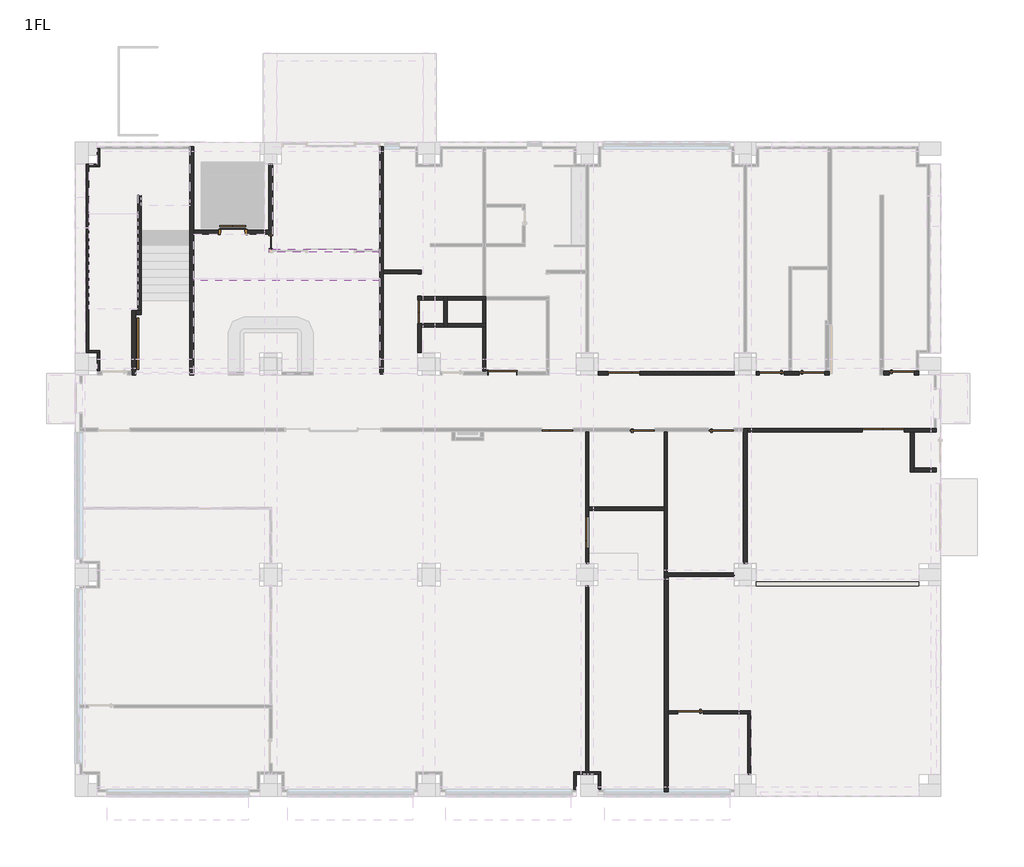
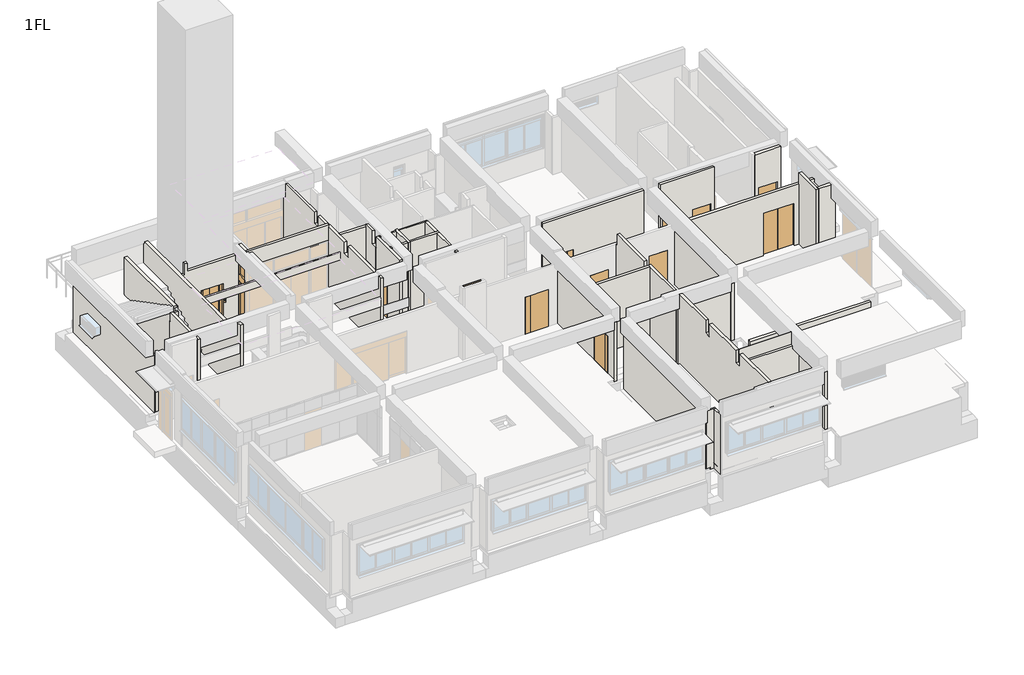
# One storey, part 2 of 7: 42 walls, 16 doors.
"""IFC4 building model written with IfcOpenShell, lengths in millimetres."""

from ifc_helpers import new_model, si_unit, frame, origin, origin_with_axes, place, context, project, spatial, polyline, outline, extrude, faceted_brep, transform, mapped, element, save
from components import door_18b0804b, door_c235f466, door_9fa6e922, door_14d6dc4f, door_dd0264bc, door_f9cae23c, door_7458d189, door_0812e9ce, door_c34db0e4, door_7e7a0efd, door_99cccb81, sd11_5945a8e4

model = new_model("IFC4")

# Units and contexts
model_context = context("Model", 3, world=origin())
ifc_project = project(units=[si_unit("LENGTHUNIT", "METRE", prefix="MILLI")], contexts=[model_context])

# Site, building, storey
site = spatial("IfcSite", under=ifc_project)
building = spatial("IfcBuilding", under=site)
storey = spatial("IfcBuildingStorey", under=building, Name="1FL", Elevation=0.0)

# Doors
placement = place(None, origin())
door_shape = door_18b0804b(model_context)
element("IfcDoor", 1, ObjectType="営_親子扉 : LD2 1200*2000", at=placement, inside=storey, context=model_context, shape_type="MappedRepresentation", body=[
    mapped(door_shape, transform((19000.0, 9600.0, 0.0), x_axis=(0.0, 1.0, 0.0), y_axis=(-1.0, 0.0, 0.0), z_axis=(0.0, 0.0, 1.0))),
])
door_2_shape = door_c235f466(model_context)
element("IfcDoor", 2, ObjectType="営_親子扉 : LD2 1200*2000", at=placement, inside=storey, context=model_context, shape_type="MappedRepresentation", body=[
    mapped(door_2_shape, transform((17875.0, 13500.0, 0.0), x_axis=(1.0, 0.0, 0.0), y_axis=(0.0, 1.0, 0.0), z_axis=(0.0, 0.0, 1.0))),
])
element("IfcDoor", 3, ObjectType="営_親子扉 : LD2 1200*2000", at=placement, inside=storey, context=model_context, shape_type="MappedRepresentation", body=[
    mapped(door_2_shape, transform((20400.0, 15640.0, 0.0), x_axis=(-1.0, 0.0, 0.0), y_axis=(0.0, -1.0, 0.0), z_axis=(0.0, 0.0, 1.0))),
])
door_3_shape = door_9fa6e922(model_context)
element("IfcDoor", 4, ObjectType="営_EVドア : EVドア", at=placement, inside=storey, context=model_context, shape_type="MappedRepresentation", body=[
    mapped(door_3_shape, transform((5560.0, 21000.0, 0.0), x_axis=(1.0, 0.0, 0.0), y_axis=(0.0, 1.0, 0.0), z_axis=(0.0, 0.0, 1.0))),
])
door_4_shape = door_14d6dc4f(model_context)
element("IfcDoor", 5, ObjectType="営_三方枠 : S1_850*2000", at=placement, inside=storey, context=model_context, shape_type="MappedRepresentation", body=[
    mapped(door_4_shape, transform((12640.0, 18990.25, 0.0), x_axis=(0.0, 1.0, 0.0), y_axis=(-1.0, 0.0, 0.0), z_axis=(0.0, 0.0, 1.0))),
])
door_5_shape = door_dd0264bc(model_context)
element("IfcDoor", 6, ObjectType="営_両開き扉 : SD3a 1600*2300", at=placement, inside=storey, context=model_context, shape_type="MappedRepresentation", body=[
    mapped(door_5_shape, transform((30235.0, 13480.0, 0.0), x_axis=(1.0, 0.0, 0.0), y_axis=(0.0, 1.0, 0.0), z_axis=(0.0, 0.0, 1.0))),
])
door_6_shape = door_f9cae23c(model_context)
element("IfcDoor", 7, ObjectType="営_両開き扉 : LD5 900*2000", at=placement, inside=storey, context=model_context, shape_type="MappedRepresentation", body=[
    mapped(door_6_shape, transform((12640.0, 17975.0, 0.0), x_axis=(0.0, 1.0, 0.0), y_axis=(-1.0, 0.0, 0.0), z_axis=(0.0, 0.0, 1.0))),
])
door_7_shape = door_7458d189(model_context)
element("IfcDoor", 8, ObjectType="営_引戸／引込戸 : LD1 960*2000", at=placement, inside=storey, context=model_context, shape_type="MappedRepresentation", body=[
    mapped(door_7_shape, transform((15800.0, 15640.0, 0.0), x_axis=(1.0, 0.0, 0.0), y_axis=(0.0, 1.0, 0.0), z_axis=(0.0, 0.0, 1.0))),
])
door_8_shape = door_0812e9ce(model_context)
element("IfcDoor", 9, ObjectType="営_片開き扉 : LD3 950*2000", at=placement, inside=storey, context=model_context, shape_type="MappedRepresentation", body=[
    mapped(door_8_shape, transform((26000.0, 15640.0, 0.0), x_axis=(-1.0, 0.0, 0.0), y_axis=(0.0, -1.0, 0.0), z_axis=(0.0, 0.0, 1.0))),
])
element("IfcDoor", 10, ObjectType="営_片開き扉 : LD3 950*2000", at=placement, inside=storey, context=model_context, shape_type="MappedRepresentation", body=[
    mapped(door_8_shape, transform((21085.0, 13500.0, 0.0), x_axis=(1.0, 0.0, 0.0), y_axis=(0.0, 1.0, 0.0), z_axis=(0.0, 0.0, 1.0))),
])
element("IfcDoor", 11, ObjectType="営_片開き扉 : LD3 950*2000", at=placement, inside=storey, context=model_context, shape_type="MappedRepresentation", body=[
    mapped(door_8_shape, transform((24085.0, 13500.0, 0.0), x_axis=(1.0, 0.0, 0.0), y_axis=(0.0, 1.0, 0.0), z_axis=(0.0, 0.0, 1.0))),
])
door_9_shape = door_c34db0e4(model_context)
element("IfcDoor", 12, ObjectType="営_片開き扉 : LD3 950*2000", at=placement, inside=storey, context=model_context, shape_type="MappedRepresentation", body=[
    mapped(door_9_shape, transform((30925.0, 15655.0, 0.0), x_axis=(1.0, 0.0, 0.0), y_axis=(0.0, 1.0, 0.0), z_axis=(0.0, 0.0, 1.0))),
])
door_10_shape = door_7e7a0efd(model_context)
element("IfcDoor", 13, ObjectType="営_片開き扉 : LD3 950*2000", at=placement, inside=storey, context=model_context, shape_type="MappedRepresentation", body=[
    mapped(door_10_shape, transform((27530.0, 15640.0, 0.0), x_axis=(1.0, 0.0, 0.0), y_axis=(0.0, 1.0, 0.0), z_axis=(0.0, 0.0, 1.0))),
])
element("IfcDoor", 14, ObjectType="営_片開き扉 : SD4b 950*2000", at=placement, inside=storey, context=model_context, shape_type="MappedRepresentation", body=[
    mapped(door_8_shape, transform((22920.0, 2778.3416571, 0.0), x_axis=(-1.0, 0.0, 0.0), y_axis=(0.0, -1.0, 0.0), z_axis=(0.0, 0.0, 1.0))),
])
door_11_shape = door_99cccb81(model_context)
element("IfcDoor", 15, ObjectType="営_自動ドア 両引き+ランマ1c : SSD1c 495*3050", at=placement, inside=storey, context=model_context, shape_type="MappedRepresentation", body=[
    mapped(door_11_shape, transform((7010.0, 20617.5, 0.0), x_axis=(0.0, -1.0, 0.0), y_axis=(1.0, 0.0, 0.0), z_axis=(0.0, 0.0, 1.0))),
])
sd11_shape = sd11_5945a8e4(model_context)
element("IfcDoor", 16, ObjectType="営_随閉扉 A階段 1F : SD11", at=placement, inside=storey, context=model_context, shape_type="MappedRepresentation", body=[
    mapped(sd11_shape, transform((1800.0, 16755.0, 0.0), x_axis=(0.0, -1.0, 0.0), y_axis=(1.0, 0.0, 0.0), z_axis=(0.0, 0.0, 1.0))),
])

# Walls
element("IfcWall", 17, ObjectType="(内壁)150_RC", at=placement, inside=storey, context=model_context, shape_type="Brep", body=[
    faceted_brep([(21925.0, 7925.0, 0.0), (24580.0, 7925.0, 0.0), (24580.0, 7925.0, 3150.0), (22075.0, 7925.0, 3150.0), (21925.0, 7925.0, 3150.0), (24580.0, 8075.0, 0.0), (22040.0, 8075.0, 0.0), (21925.0, 8075.0, 0.0), (21925.0, 8075.0, 3150.0), (22040.0, 8075.0, 3150.0), (24580.0, 8075.0, 3150.0)], [[[0, 1, 2, 3, 4]], [[5, 6, 7, 8, 9, 10]], [[0, 7, 6, 5, 1]], [[7, 0, 4, 8]], [[1, 5, 10, 2]], [[4, 3, 2, 10, 9, 8]]]),
])
element("IfcWall", 18, ObjectType="(内壁)150_RC", at=placement, inside=storey, context=model_context, shape_type="Brep", body=[
    faceted_brep([(25075.0, 8420.0, 0.0), (25075.0, 13405.0, 0.0), (25075.0, 13555.0, 0.0), (25075.0, 13555.0, 3100.0), (25075.0, 13405.0, 3100.0), (25075.0, 8420.0, 3100.0), (24925.0, 13555.0, 0.0), (24925.0, 13440.0, 0.0), (24925.0, 8420.0, 0.0), (24925.0, 8420.0, 3100.0), (24925.0, 13440.0, 3100.0), (24925.0, 13555.0, 3100.0)], [[[0, 1, 2, 3, 4, 5]], [[6, 7, 8, 9, 10, 11]], [[6, 2, 1, 0, 8, 7]], [[8, 0, 5, 9]], [[5, 4, 3, 11, 10, 9]], [[2, 6, 11, 3]]]),
])
element("IfcWall", 19, ObjectType="(内壁)150_RC", at=placement, inside=storey, context=model_context, shape_type="Brep", body=[
    faceted_brep([(25225.0, 13405.0, 3100.0), (25075.0, 13405.0, 3100.0), (25075.0, 13405.0, 0.0), (29435.0, 13405.0, 0.0), (29435.0, 13405.0, 2300.0), (31035.0, 13405.0, 2300.0), (31035.0, 13405.0, 0.0), (31260.0, 13405.0, 0.0), (31410.0, 13405.0, 0.0), (32250.0, 13405.0, 0.0), (32250.0, 13405.0, 3100.0), (32050.0, 13405.0, 3100.0), (32050.0, 13405.0, 3250.0), (25225.0, 13405.0, 3250.0), (25075.0, 13555.0, 3100.0), (25225.0, 13555.0, 3100.0), (25225.0, 13555.0, 3250.0), (32050.0, 13555.0, 3250.0), (32050.0, 13555.0, 3100.0), (32160.0, 13555.0, 3100.0), (32250.0, 13555.0, 3100.0), (32250.0, 13555.0, 0.0), (32160.0, 13555.0, 0.0), (31035.0, 13555.0, 0.0), (31035.0, 13555.0, 2300.0), (29435.0, 13555.0, 2300.0), (29435.0, 13555.0, 0.0), (25075.0, 13555.0, 0.0)], [[[0, 1, 2, 3, 4, 5, 6, 7, 8, 9, 10, 11, 12, 13]], [[14, 15, 16, 17, 18, 19, 20, 21, 22, 23, 24, 25, 26, 27]], [[2, 27, 26, 3]], [[21, 9, 8, 7, 6, 23, 22]], [[15, 0, 13, 16]], [[0, 15, 14, 1]], [[18, 11, 10, 20, 19]], [[11, 18, 17, 12]], [[26, 25, 4, 3]], [[24, 23, 6, 5]], [[25, 24, 5, 4]], [[27, 2, 1, 14]], [[13, 12, 17, 16]], [[9, 21, 20, 10]]]),
])
element("IfcWall", 20, ObjectType="(内壁)150_RC", at=placement, inside=storey, context=model_context, shape_type="Brep", body=[
    faceted_brep([(21925.0, 7925.0, -10.0), (21925.0, -250.0, -10.0), (21925.0, -250.0, 3150.0), (21925.0, -50.0, 3150.0), (21925.0, -50.0, 3940.0), (21925.0, 2485.0, 3940.0), (21925.0, 2485.0, 3250.0), (21925.0, 2835.0, 3250.0), (21925.0, 2835.0, 3940.0), (21925.0, 5155.0, 3940.0), (21925.0, 5155.0, 3250.0), (21925.0, 5505.0, 3250.0), (21925.0, 5505.0, 3940.0), (21925.0, 7825.0, 3940.0), (21925.0, 7825.0, 3150.0), (21925.0, 7925.0, 3150.0), (21925.0, 7925.0, 0.0), (22075.0, -250.0, -10.0), (22075.0, 7925.0, -10.0), (22075.0, 7925.0, 3150.0), (22075.0, 7825.0, 3150.0), (22075.0, 7825.0, 3940.0), (22075.0, 5505.0, 3940.0), (22075.0, 5505.0, 3250.0), (22075.0, 5155.0, 3250.0), (22075.0, 5155.0, 3940.0), (22075.0, 2838.3416571, 3940.0), (22075.0, 2835.0, 3940.0), (22075.0, 2835.0, 3250.0), (22075.0, 2718.3416571, 3250.0), (22075.0, 2485.0, 3250.0), (22075.0, 2485.0, 3940.0), (22075.0, -50.0, 3940.0), (22075.0, -50.0, 3150.0), (22075.0, -250.0, 3150.0)], [[[0, 1, 2, 3, 4, 5, 6, 7, 8, 9, 10, 11, 12, 13, 14, 15, 16]], [[17, 18, 19, 20, 21, 22, 23, 24, 25, 26, 27, 28, 29, 30, 31, 32, 33, 34]], [[1, 0, 18, 17]], [[8, 27, 26, 25, 9]], [[21, 13, 12, 22]], [[4, 32, 31, 5]], [[18, 0, 16, 15, 19]], [[1, 17, 34, 2]], [[33, 3, 2, 34]], [[3, 33, 32, 4]], [[14, 13, 21, 20]], [[15, 14, 20, 19]], [[30, 6, 5, 31]], [[6, 30, 29, 28, 7]], [[7, 28, 27, 8]], [[24, 10, 9, 25]], [[10, 24, 23, 11]], [[11, 23, 22, 12]]]),
])
element("IfcWall", 21, ObjectType="(内壁)150_RC", at=placement, inside=storey, context=model_context, shape_type="Brep", body=[
    faceted_brep([(30450.0, 15730.0, 2000.0), (30450.0, 15730.0, 0.0), (30255.0, 15730.0, 0.0), (30255.0, 15730.0, 3850.0), (31580.0, 15730.0, 3850.0), (31580.0, 15730.0, 3100.0), (31580.0, 15730.0, 0.0), (31490.0, 15730.0, 0.0), (31400.0, 15730.0, 0.0), (31400.0, 15730.0, 2000.0), (30450.0, 15580.0, 0.0), (30450.0, 15580.0, 2000.0), (31400.0, 15580.0, 2000.0), (31400.0, 15580.0, 0.0), (31580.0, 15580.0, 0.0), (31580.0, 15580.0, 3850.0), (30255.0, 15580.0, 3850.0), (30255.0, 15580.0, 0.0)], [[[0, 1, 2, 3, 4, 5, 6, 7, 8, 9]], [[10, 11, 12, 13, 14, 15, 16, 17]], [[1, 10, 17, 2]], [[13, 8, 7, 6, 14]], [[3, 16, 15, 4]], [[1, 0, 11, 10]], [[9, 8, 13, 12]], [[0, 9, 12, 11]], [[6, 5, 4, 15, 14]], [[3, 2, 17, 16]]]),
])
element("IfcWall", 22, ObjectType="(内壁)150_RC", at=placement, inside=storey, context=model_context, shape_type="Brep", body=[
    faceted_brep([(4075.0, 15580.0, 0.0), (4075.0, 20925.0, 0.0), (4075.0, 21075.0, 0.0), (4075.0, 24250.0, 0.0), (4075.0, 24250.0, 3150.0), (4075.0, 24050.0, 3150.0), (4075.0, 24050.0, 3250.0), (4075.0, 21075.0, 3250.0), (4075.0, 20925.0, 3250.0), (4075.0, 15825.0, 3250.0), (4075.0, 15825.0, 3850.0), (4075.0, 15580.0, 3850.0), (3925.0, 24250.0, 0.0), (3925.0, 24160.0, 0.0), (3925.0, 15580.0, 0.0), (3925.0, 15580.0, 3850.0), (3925.0, 15825.0, 3850.0), (3925.0, 15825.0, 3250.0), (3925.0, 24050.0, 3250.0), (3925.0, 24050.0, 3150.0), (3925.0, 24250.0, 3150.0), (3925.0, 24250.0, 3100.0)], [[[0, 1, 2, 3, 4, 5, 6, 7, 8, 9, 10, 11]], [[12, 13, 14, 15, 16, 17, 18, 19, 20, 21]], [[3, 2, 1, 0, 14, 13, 12]], [[15, 11, 10, 16]], [[0, 11, 15, 14]], [[5, 19, 18, 6]], [[5, 4, 20, 19]], [[17, 9, 8, 7, 6, 18]], [[9, 17, 16, 10]], [[3, 12, 21, 20, 4]]]),
])
element("IfcWall", 23, ObjectType="(内壁)150_RC", at=placement, inside=storey, context=model_context, shape_type="Brep", body=[
    faceted_brep([(7075.0, 20925.0, 3100.0), (6775.0, 20925.0, 3100.0), (6775.0, 20925.0, 3400.0), (4306.3, 20925.0, 3400.0), (4306.3, 20925.0, 3850.0), (4175.0, 20925.0, 3850.0), (4175.0, 20925.0, 3250.0), (4075.0, 20925.0, 3250.0), (4075.0, 20925.0, 0.0), (5000.0, 20925.0, 0.0), (5000.0, 20925.0, 2100.0), (6120.0, 20925.0, 2100.0), (6120.0, 20925.0, 0.0), (7075.0, 20925.0, 0.0), (6775.0, 21075.0, 3100.0), (6925.0, 21075.0, 3100.0), (7075.0, 21075.0, 3100.0), (7075.0, 21075.0, 0.0), (6925.0, 21075.0, 0.0), (6120.0, 21075.0, 0.0), (6120.0, 21075.0, 2100.0), (5000.0, 21075.0, 2100.0), (5000.0, 21075.0, 0.0), (4075.0, 21075.0, 0.0), (4075.0, 21075.0, 3250.0), (4175.0, 21075.0, 3250.0), (4175.0, 21075.0, 3850.0), (4306.3, 21075.0, 3850.0), (4306.3, 21075.0, 3400.0), (6775.0, 21075.0, 3400.0)], [[[0, 1, 2, 3, 4, 5, 6, 7, 8, 9, 10, 11, 12, 13]], [[14, 15, 16, 17, 18, 19, 20, 21, 22, 23, 24, 25, 26, 27, 28, 29]], [[8, 23, 22, 9]], [[17, 13, 12, 19, 18]], [[4, 27, 26, 5]], [[23, 8, 7, 24]], [[13, 17, 16, 0]], [[14, 1, 0, 16, 15]], [[1, 14, 29, 2]], [[22, 21, 10, 9]], [[20, 19, 12, 11]], [[21, 20, 11, 10]], [[3, 28, 27, 4]], [[28, 3, 2, 29]], [[25, 6, 5, 26]], [[6, 25, 24, 7]]]),
])
element("IfcWall", 24, ObjectType="(内壁)150_RC", at=placement, inside=storey, context=model_context, shape_type="SweptSolid", body=[
    extrude(outline(polyline([(7075.0, 21075.0), (6925.0, 21075.0), (6925.0, 23580.0), (7075.0, 23580.0), (7075.0, 21075.0)])), origin_with_axes(), (0.0, 0.0, 1.0), 3100.0),
])
element("IfcWall", 25, ObjectType="(内壁)W3", at=placement, inside=storey, context=model_context, shape_type="Brep", body=[
    faceted_brep([(11140.0, 20240.0, 3950.0), (6940.0, 20240.0, 3950.0), (6940.0, 20240.0, 3050.0), (11140.0, 20240.0, 3050.0), (6940.0, 20360.0, 3950.0), (7060.0, 20360.0, 3950.0), (11140.0, 20360.0, 3950.0), (11140.0, 20360.0, 3050.0), (6940.0, 20360.0, 3050.0)], [[[0, 1, 2, 3]], [[4, 5, 6, 7, 8]], [[1, 0, 6, 5, 4]], [[6, 0, 3, 7]], [[1, 4, 8, 2]], [[3, 2, 8, 7]]]),
])
element("IfcWall", 26, ObjectType="(内壁)W4", at=placement, inside=storey, context=model_context, shape_type="Brep", body=[
    faceted_brep([(11140.0, 24250.0, 0.0), (11140.0, 15615.0, 0.0), (11140.0, 15615.0, 2310.0), (11140.0, 15615.0, 2810.0), (11140.0, 15615.0, 3850.0), (11140.0, 15825.0, 3850.0), (11140.0, 15825.0, 3150.0), (11140.0, 16175.0, 3150.0), (11140.0, 16175.0, 3850.0), (11140.0, 18495.0, 3850.0), (11140.0, 18495.0, 3250.0), (11140.0, 18845.0, 3250.0), (11140.0, 18845.0, 3850.0), (11140.0, 21165.0, 3850.0), (11140.0, 21165.0, 3250.0), (11140.0, 21515.0, 3250.0), (11140.0, 21515.0, 3850.0), (11140.0, 24050.0, 3850.0), (11140.0, 24050.0, 3150.0), (11140.0, 24250.0, 3150.0), (11260.0, 15615.0, 0.0), (11260.0, 19430.0, 0.0), (11260.0, 19550.0, 0.0), (11260.0, 24160.0, 0.0), (11260.0, 24250.0, 0.0), (11260.0, 24250.0, 3100.0), (11260.0, 24250.0, 3150.0), (11260.0, 24050.0, 3150.0), (11260.0, 24050.0, 3850.0), (11260.0, 21515.0, 3850.0), (11260.0, 21515.0, 3250.0), (11260.0, 21165.0, 3250.0), (11260.0, 21165.0, 3850.0), (11260.0, 19550.0, 3850.0), (11260.0, 19430.0, 3850.0), (11260.0, 18845.0, 3850.0), (11260.0, 18845.0, 3250.0), (11260.0, 18495.0, 3250.0), (11260.0, 18495.0, 3850.0), (11260.0, 16175.0, 3850.0), (11260.0, 16175.0, 3150.0), (11260.0, 15825.0, 3150.0), (11260.0, 15825.0, 3850.0), (11260.0, 15615.0, 3850.0), (11200.0, 15825.0, 3850.0), (11200.0, 16175.0, 3850.0), (11200.0, 18495.0, 3850.0), (11200.0, 24050.0, 3850.0), (11200.0, 21515.0, 3850.0), (11200.0, 18845.0, 3850.0), (11200.0, 21165.0, 3850.0)], [[[0, 1, 2, 3, 4, 5, 6, 7, 8, 9, 10, 11, 12, 13, 14, 15, 16, 17, 18, 19]], [[20, 21, 22, 23, 24, 25, 26, 27, 28, 29, 30, 31, 32, 33, 34, 35, 36, 37, 38, 39, 40, 41, 42, 43]], [[1, 0, 24, 23, 22, 21, 20]], [[5, 4, 43, 42, 44]], [[8, 45, 39, 38, 46, 9]], [[28, 47, 17, 16, 48, 29]], [[12, 49, 35, 34, 33, 32, 50, 13]], [[24, 0, 19, 26, 25]], [[41, 6, 5, 44, 42]], [[6, 41, 40, 7]], [[7, 40, 39, 45, 8]], [[18, 17, 47, 28, 27]], [[19, 18, 27, 26]], [[37, 10, 9, 46, 38]], [[10, 37, 36, 11]], [[11, 36, 35, 49, 12]], [[31, 14, 13, 50, 32]], [[14, 31, 30, 15]], [[15, 30, 29, 48, 16]], [[4, 3, 2, 1, 20, 43]]]),
])
element("IfcWall", 27, ObjectType="(内壁)150_RC", at=placement, inside=storey, context=model_context, shape_type="Brep", body=[
    faceted_brep([(1875.0, 15580.0, 0.0), (1875.0, 17880.0, 0.0), (1875.0, 18030.0, 0.0), (1875.0, 18030.0, 3400.0), (1875.0, 17975.0, 3400.0), (1875.0, 17975.0, 3850.0), (1875.0, 17880.0, 3850.0), (1875.0, 16175.0, 3850.0), (1875.0, 16175.0, 3150.0), (1875.0, 15825.0, 3150.0), (1875.0, 15825.0, 3850.0), (1875.0, 15580.0, 3850.0), (1725.0, 18030.0, 0.0), (1725.0, 15730.0, 0.0), (1725.0, 15580.0, 0.0), (1725.0, 15580.0, 3850.0), (1725.0, 15825.0, 3850.0), (1725.0, 15825.0, 3150.0), (1725.0, 16175.0, 3150.0), (1725.0, 16175.0, 3850.0), (1725.0, 17975.0, 3850.0), (1725.0, 17975.0, 3400.0), (1725.0, 18030.0, 3400.0)], [[[0, 1, 2, 3, 4, 5, 6, 7, 8, 9, 10, 11]], [[12, 13, 14, 15, 16, 17, 18, 19, 20, 21, 22]], [[2, 1, 0, 14, 13, 12]], [[11, 10, 16, 15]], [[19, 7, 6, 5, 20]], [[2, 12, 22, 3]], [[9, 17, 16, 10]], [[17, 9, 8, 18]], [[18, 8, 7, 19]], [[0, 11, 15, 14]], [[4, 21, 20, 5]], [[21, 4, 3, 22]]]),
])
element("IfcWall", 28, ObjectType="(内壁)150_RC", at=placement, inside=storey, context=model_context, shape_type="Brep", body=[
    faceted_brep([(1875.0, 17880.0, 0.0), (2095.0, 17880.0, 0.0), (2095.0, 17880.0, 3850.0), (1875.0, 17880.0, 3850.0), (2095.0, 18030.0, 0.0), (1945.0, 18030.0, 0.0), (1875.0, 18030.0, 0.0), (1875.0, 18030.0, 3400.0), (1945.0, 18030.0, 3400.0), (2095.0, 18030.0, 3400.0), (2095.0, 17975.0, 3850.0), (1875.0, 17975.0, 3850.0), (1875.0, 17975.0, 3400.0), (2095.0, 17975.0, 3400.0)], [[[0, 1, 2, 3]], [[4, 5, 6, 7, 8, 9]], [[1, 0, 6, 5, 4]], [[3, 2, 10, 11]], [[0, 3, 11, 12, 7, 6]], [[2, 1, 4, 9, 13, 10]], [[13, 12, 11, 10]], [[12, 13, 9, 8, 7]]]),
])
element("IfcWall", 29, ObjectType="(内壁)150_RC", at=placement, inside=storey, context=model_context, shape_type="Brep", body=[
    faceted_brep([(2095.0, 18030.0, 0.0), (2095.0, 22410.0, 0.0), (2095.0, 22410.0, 4100.0), (2095.0, 18030.0, 4100.0), (2095.0, 18030.0, 4000.0), (2095.0, 18225.0, 4000.0), (2095.0, 18225.0, 3940.0), (2095.0, 18225.0, 3400.0), (2095.0, 18030.0, 3400.0), (1945.0, 22410.0, 0.0), (1945.0, 18030.0, 0.0), (1945.0, 18030.0, 3400.0), (1945.0, 18225.0, 3400.0), (1945.0, 18225.0, 4000.0), (1945.0, 18100.0, 4000.0), (1945.0, 18030.0, 4000.0), (1945.0, 18030.0, 4100.0), (1945.0, 22410.0, 4100.0)], [[[0, 1, 2, 3, 4, 5, 6, 7, 8]], [[9, 10, 11, 12, 13, 14, 15, 16, 17]], [[1, 0, 10, 9]], [[2, 1, 9, 17]], [[3, 2, 17, 16]], [[3, 16, 15, 4]], [[10, 0, 8, 11]], [[7, 12, 11, 8]], [[12, 7, 6, 5, 13]], [[13, 5, 4, 15, 14]]]),
])
element("IfcWall", 30, ObjectType="(内壁)W3", at=placement, inside=storey, context=model_context, shape_type="Brep", body=[
    faceted_brep([(18940.0, 13440.0, 3100.0), (18940.0, 13440.0, -100.0), (18940.0, 8420.0, -100.0), (18940.0, 8420.0, 3100.0), (18940.0, 9000.0, 2000.0), (18940.0, 9000.0, 0.0), (18940.0, 10200.0, 0.0), (18940.0, 10200.0, 2000.0), (19060.0, 13440.0, -100.0), (19060.0, 13440.0, 3100.0), (19060.0, 10560.0, 3100.0), (19060.0, 10440.0, 3100.0), (19060.0, 8420.0, 3100.0), (19060.0, 8420.0, -100.0), (19060.0, 9000.0, 0.0), (19060.0, 9000.0, 2000.0), (19060.0, 10200.0, 2000.0), (19060.0, 10200.0, 0.0)], [[[0, 1, 2, 3], [4, 5, 6, 7]], [[8, 9, 10, 11, 12, 13], [14, 15, 16, 17]], [[1, 8, 13, 2]], [[8, 1, 0, 9]], [[5, 4, 15, 14]], [[6, 5, 14, 17]], [[7, 6, 17, 16]], [[4, 7, 16, 15]], [[2, 13, 12, 3]], [[0, 3, 12, 11, 10, 9]]]),
    faceted_brep([(18940.0, 420.0, 3100.0), (18940.0, 510.0, 3100.0), (18940.0, 7580.0, 3100.0), (18940.0, 7580.0, 0.0), (18940.0, 510.0, 0.0), (18940.0, 420.0, 0.0), (19060.0, 7580.0, 3100.0), (19060.0, 510.0, 3100.0), (19060.0, 420.0, 3100.0), (19060.0, 420.0, 0.0), (19060.0, 510.0, 0.0), (19060.0, 7580.0, 0.0)], [[[0, 1, 2, 3, 4, 5]], [[6, 7, 8, 9, 10, 11]], [[8, 0, 5, 9]], [[2, 6, 11, 3]], [[2, 1, 0, 8, 7, 6]], [[5, 4, 3, 11, 10, 9]]]),
])
element("IfcWall", 31, ObjectType="(内壁)W3", at=placement, inside=storey, context=model_context, shape_type="SweptSolid", body=[
    extrude(outline(polyline([(0.0, 19060.0), (0.0, 21920.0), (3850.0, 21920.0), (3850.0, 19225.0), (3100.0, 19225.0), (3100.0, 19060.0), (0.0, 19060.0)])), frame((0.0, 10440.0, 0.0), z_axis=(0.0, 1.0, 0.0), x_axis=(0.0, 0.0, 1.0)), (0.0, 0.0, 1.0), 120.0),
])
element("IfcWall", 32, ObjectType="(内壁)W3", at=placement, inside=storey, context=model_context, shape_type="Brep", body=[
    faceted_brep([(21920.0, 13440.0, 0.0), (21920.0, 10560.0, 0.0), (21920.0, 10440.0, 0.0), (21920.0, 8075.0, 0.0), (21920.0, 8075.0, 3150.0), (21920.0, 8175.0, 3150.0), (21920.0, 8175.0, 3850.0), (21920.0, 10440.0, 3850.0), (21920.0, 10560.0, 3850.0), (21920.0, 10575.0, 3850.0), (21920.0, 10575.0, 3250.0), (21920.0, 10925.0, 3250.0), (21920.0, 10925.0, 3850.0), (21920.0, 13325.0, 3850.0), (21920.0, 13325.0, 3250.0), (21920.0, 13440.0, 3250.0), (22040.0, 8075.0, 0.0), (22040.0, 13440.0, 0.0), (22040.0, 13440.0, 3250.0), (22040.0, 13325.0, 3250.0), (22040.0, 13325.0, 3850.0), (22040.0, 10925.0, 3850.0), (22040.0, 10925.0, 3250.0), (22040.0, 10575.0, 3250.0), (22040.0, 10575.0, 3850.0), (22040.0, 8175.0, 3850.0), (22040.0, 8175.0, 3150.0), (22040.0, 8075.0, 3150.0), (21925.0, 8075.0, 0.0), (21925.0, 8075.0, 3150.0)], [[[0, 1, 2, 3, 4, 5, 6, 7, 8, 9, 10, 11, 12, 13, 14, 15]], [[16, 17, 18, 19, 20, 21, 22, 23, 24, 25, 26, 27]], [[3, 2, 1, 0, 17, 16, 28]], [[6, 25, 24, 9, 8, 7]], [[12, 21, 20, 13]], [[17, 0, 15, 18]], [[3, 28, 16, 27, 29, 4]], [[26, 5, 4, 29, 27]], [[5, 26, 25, 6]], [[23, 10, 9, 24]], [[10, 23, 22, 11]], [[11, 22, 21, 12]], [[19, 14, 13, 20]], [[14, 19, 18, 15]]]),
])
element("IfcWall", 33, ObjectType="(内壁)W3", at=placement, inside=storey, context=model_context, shape_type="Brep", body=[
    faceted_brep([(23395.0, 2718.3416571, 2000.0), (23395.0, 2718.3416571, 0.0), (25091.4048652, 2718.3416571, 0.0), (25211.4048652, 2718.3416571, 0.0), (25211.4048652, 2718.3416571, 3100.0), (25091.4048652, 2718.3416571, 3100.0), (24775.0, 2718.3416571, 3100.0), (24775.0, 2718.3416571, 3250.0), (22075.0, 2718.3416571, 3250.0), (22075.0, 2718.3416571, 0.0), (22445.0, 2718.3416571, 0.0), (22445.0, 2718.3416571, 2000.0), (22075.0, 2838.3416571, 0.0), (22075.0, 2838.3416571, 3940.0), (24775.0, 2838.3416571, 3940.0), (24775.0, 2838.3416571, 3100.0), (25211.4048652, 2838.3416571, 3100.0), (25211.4048652, 2838.3416571, 0.0), (23395.0, 2838.3416571, 0.0), (23395.0, 2838.3416571, 2000.0), (22445.0, 2838.3416571, 2000.0), (22445.0, 2838.3416571, 0.0), (22075.0, 2835.0, 3940.0), (24775.0, 2835.0, 3940.0), (22075.0, 2835.0, 3250.0), (24775.0, 2835.0, 3250.0)], [[[0, 1, 2, 3, 4, 5, 6, 7, 8, 9, 10, 11]], [[12, 13, 14, 15, 16, 17, 18, 19, 20, 21]], [[9, 12, 21, 10]], [[17, 3, 2, 1, 18]], [[14, 13, 22, 23]], [[13, 12, 9, 8, 24, 22]], [[3, 17, 16, 4]], [[1, 0, 19, 18]], [[11, 10, 21, 20]], [[0, 11, 20, 19]], [[15, 6, 5, 4, 16]], [[6, 15, 14, 23, 25, 7]], [[25, 24, 8, 7]], [[24, 25, 23, 22]]]),
])
element("IfcWall", 34, ObjectType="(内壁)W3", at=placement, inside=storey, context=model_context, shape_type="SweptSolid", body=[
    extrude(outline(polyline([(25091.4048652, 2718.3416571), (25211.4048652, 2718.3416571), (25211.4048652, 420.0), (25091.4048652, 420.0), (25091.4048652, 2718.3416571)])), origin_with_axes(), (0.0, 0.0, 1.0), 3100.0),
])
element("IfcWall", 35, ObjectType="(内壁)W4", at=placement, inside=storey, context=model_context, shape_type="Brep", body=[
    faceted_brep([(12700.0, 17525.0, 0.0), (12700.0, 17525.0, 2000.0), (12700.0, 18425.0, 2000.0), (12700.0, 18425.0, 0.0), (12700.0, 18430.0, 0.0), (12700.0, 18550.0, 0.0), (12700.0, 18550.0, 3250.0), (12700.0, 18495.0, 3250.0), (12700.0, 18495.0, 3850.0), (12700.0, 18430.0, 3850.0), (12700.0, 17520.0, 3850.0), (12700.0, 17400.0, 3850.0), (12700.0, 16420.0, 3850.0), (12700.0, 16420.0, 0.0), (12700.0, 17400.0, 0.0), (12700.0, 17520.0, 0.0), (12580.0, 17525.0, 2000.0), (12580.0, 17525.0, 0.0), (12580.0, 16420.0, 0.0), (12580.0, 16420.0, 3850.0), (12580.0, 18495.0, 3850.0), (12580.0, 18495.0, 3250.0), (12580.0, 18550.0, 3250.0), (12580.0, 18550.0, 0.0), (12580.0, 18425.0, 0.0), (12580.0, 18425.0, 2000.0)], [[[0, 1, 2, 3, 4, 5, 6, 7, 8, 9, 10, 11, 12, 13, 14, 15]], [[16, 17, 18, 19, 20, 21, 22, 23, 24, 25]], [[17, 0, 15, 14, 13, 18]], [[23, 5, 4, 3, 24]], [[19, 12, 11, 10, 9, 8, 20]], [[5, 23, 22, 6]], [[17, 16, 1, 0]], [[25, 24, 3, 2]], [[16, 25, 2, 1]], [[13, 12, 19, 18]], [[7, 21, 20, 8]], [[21, 7, 6, 22]]]),
])
element("IfcWall", 36, ObjectType="(内壁)W4", at=placement, inside=storey, context=model_context, shape_type="Brep", body=[
    faceted_brep([(12700.0, 18430.0, 0.0), (13570.0, 18430.0, 0.0), (13570.0, 18430.0, 3850.0), (13225.0, 18430.0, 3850.0), (13225.0, 18430.0, 3100.0), (12775.0, 18430.0, 3100.0), (12775.0, 18430.0, 3850.0), (12700.0, 18430.0, 3850.0), (13570.0, 18550.0, 0.0), (12700.0, 18550.0, 0.0), (12700.0, 18550.0, 3250.0), (12775.0, 18550.0, 3250.0), (12775.0, 18550.0, 3100.0), (13225.0, 18550.0, 3100.0), (13225.0, 18550.0, 3250.0), (13570.0, 18550.0, 3250.0), (12775.0, 18495.0, 3850.0), (12700.0, 18495.0, 3850.0), (13225.0, 18495.0, 3850.0), (13570.0, 18495.0, 3850.0), (12700.0, 18495.0, 3250.0), (13225.0, 18495.0, 3250.0), (12775.0, 18495.0, 3250.0), (13570.0, 18495.0, 3250.0)], [[[0, 1, 2, 3, 4, 5, 6, 7]], [[8, 9, 10, 11, 12, 13, 14, 15]], [[1, 0, 9, 8]], [[6, 16, 17, 7]], [[18, 3, 2, 19]], [[0, 7, 17, 20, 10, 9]], [[13, 4, 3, 18, 21, 14]], [[4, 13, 12, 5]], [[5, 12, 11, 22, 16, 6]], [[18, 19, 23, 21]], [[15, 14, 21, 23]], [[22, 20, 17, 16]], [[20, 22, 11, 10]], [[2, 1, 8, 15, 23, 19]]]),
])
element("IfcWall", 37, ObjectType="(内壁)W4", at=placement, inside=storey, context=model_context, shape_type="SweptSolid", body=[
    extrude(outline(polyline([(0.0, 12700.0), (0.0, 13570.0), (3850.0, 13570.0), (3850.0, 13225.0), (3100.0, 13225.0), (3100.0, 12775.0), (3850.0, 12775.0), (3850.0, 12700.0), (0.0, 12700.0)])), frame((0.0, 17400.0, 0.0), z_axis=(0.0, 1.0, 0.0), x_axis=(0.0, 0.0, 1.0)), (0.0, 0.0, 1.0), 120.0),
])
element("IfcWall", 38, ObjectType="(内壁)W1", at=placement, inside=storey, context=model_context, shape_type="Brep", body=[
    faceted_brep([(13690.0, 17400.0, 0.0), (13690.0, 17520.0, 0.0), (13690.0, 18430.0, 0.0), (13690.0, 18550.0, 0.0), (13690.0, 18550.0, 3250.0), (13690.0, 18550.0, 3850.0), (13690.0, 18495.0, 3850.0), (13690.0, 18430.0, 3850.0), (13690.0, 17520.0, 3850.0), (13690.0, 17400.0, 3850.0), (13570.0, 17400.0, 0.0), (13570.0, 17400.0, 3850.0), (13570.0, 17520.0, 3850.0), (13570.0, 18430.0, 3850.0), (13570.0, 18495.0, 3850.0), (13570.0, 18550.0, 3850.0), (13570.0, 18550.0, 3250.0), (13570.0, 18550.0, 0.0), (13570.0, 18430.0, 0.0), (13570.0, 17520.0, 0.0)], [[[0, 1, 2, 3, 4, 5, 6, 7, 8, 9]], [[10, 11, 12, 13, 14, 15, 16, 17, 18, 19]], [[3, 2, 1, 0, 10, 19, 18, 17]], [[9, 8, 7, 6, 5, 15, 14, 13, 12, 11]], [[0, 9, 11, 10]], [[5, 4, 3, 17, 16, 15]]]),
])
element("IfcWall", 39, ObjectType="(内壁)W4", at=placement, inside=storey, context=model_context, shape_type="Brep", body=[
    faceted_brep([(11260.0, 19430.0, 0.0), (12580.0, 19430.0, 0.0), (12700.0, 19430.0, 0.0), (12700.0, 19430.0, 3850.0), (11260.0, 19430.0, 3850.0), (11260.0, 19550.0, 0.0), (11260.0, 19550.0, 3850.0), (12700.0, 19550.0, 3850.0), (12700.0, 19550.0, 0.0)], [[[0, 1, 2, 3, 4]], [[5, 6, 7, 8]], [[2, 1, 0, 5, 8]], [[4, 3, 7, 6]], [[0, 4, 6, 5]], [[3, 2, 8, 7]]]),
])
element("IfcWall", 40, ObjectType="(内壁)150_RC", at=placement, inside=storey, context=model_context, shape_type="Brep", body=[
    faceted_brep([(31260.0, 13405.0, 0.0), (31260.0, 11905.0, 0.0), (31260.0, 11905.0, 3850.0), (31260.0, 13405.0, 3850.0), (31410.0, 13405.0, 0.0), (31410.0, 13405.0, 3850.0), (31410.0, 12055.0, 3850.0), (31410.0, 11905.0, 3850.0), (31410.0, 11905.0, 0.0), (31410.0, 12055.0, 0.0)], [[[0, 1, 2, 3]], [[4, 5, 6, 7, 8, 9]], [[1, 0, 4, 9, 8]], [[3, 2, 7, 6, 5]], [[2, 1, 8, 7]], [[0, 3, 5, 4]]]),
])
element("IfcWall", 41, ObjectType="(内壁)150_RC", at=placement, inside=storey, context=model_context, shape_type="SweptSolid", body=[
    extrude(outline(polyline([(0.0, 31410.0), (0.0, 32250.0), (3100.0, 32250.0), (3100.0, 32050.0), (3850.0, 32050.0), (3850.0, 31410.0), (0.0, 31410.0)])), frame((0.0, 11905.0, 0.0), z_axis=(0.0, 1.0, 0.0), x_axis=(0.0, 0.0, 1.0)), (0.0, 0.0, 1.0), 150.0),
])
element("IfcWall", 42, ObjectType="(内壁)150_H300立ち上がり", at=placement, inside=storey, context=model_context, shape_type="SweptSolid", body=[
    extrude(outline(polyline([(31580.0, 7580.0), (25420.0, 7580.0), (25420.0, 7730.0), (31580.0, 7730.0), (31580.0, 7580.0)])), frame((0.0, 0.0, -10.0), z_axis=(0.0, 0.0, 1.0), x_axis=(1.0, 0.0, 0.0)), (0.0, 0.0, 1.0), 310.0),
])
element("IfcWall", 43, ObjectType="(内壁)120_部屋境界OFF", at=placement, inside=storey, context=model_context, shape_type="Brep", body=[
    faceted_brep([(12700.0, 19430.0, 0.0), (12700.0, 19430.0, 3850.0), (12700.0, 19430.0, 3950.0), (12700.0, 18845.0, 3950.0), (12700.0, 18845.0, 3250.0), (12700.0, 18550.0, 3250.0), (12700.0, 18550.0, 0.0), (12700.0, 18555.25, 0.0), (12700.0, 18555.25, 2010.0), (12700.0, 19425.25, 2010.0), (12700.0, 19425.25, 0.0), (12580.0, 19430.0, 3950.0), (12580.0, 19430.0, 0.0), (12580.0, 19425.25, 0.0), (12580.0, 19425.25, 2010.0), (12580.0, 18555.25, 2010.0), (12580.0, 18555.25, 0.0), (12580.0, 18550.0, 0.0), (12580.0, 18550.0, 3250.0), (12580.0, 18845.0, 3250.0), (12580.0, 18845.0, 3950.0)], [[[0, 1, 2, 3, 4, 5, 6, 7, 8, 9, 10]], [[11, 12, 13, 14, 15, 16, 17, 18, 19, 20]], [[6, 17, 16, 7]], [[12, 0, 10, 13]], [[2, 11, 20, 3]], [[17, 6, 5, 18]], [[2, 1, 0, 12, 11]], [[16, 15, 8, 7]], [[14, 13, 10, 9]], [[15, 14, 9, 8]], [[4, 19, 18, 5]], [[19, 4, 3, 20]]]),
])
element("IfcWall", 44, ObjectType="(内壁)W3", at=placement, inside=storey, context=model_context, shape_type="Brep", body=[
    faceted_brep([(21000.0, 15700.0, 2000.0), (19800.0, 15700.0, 2000.0), (19800.0, 15700.0, 0.0), (19420.0, 15700.0, 0.0), (19420.0, 15700.0, 3940.0), (24580.0, 15700.0, 3940.0), (24580.0, 15700.0, 0.0), (21000.0, 15700.0, 0.0), (19800.0, 15580.0, 2000.0), (21000.0, 15580.0, 2000.0), (21000.0, 15580.0, 0.0), (24580.0, 15580.0, 0.0), (24580.0, 15580.0, 3940.0), (19420.0, 15580.0, 3940.0), (19420.0, 15580.0, 0.0), (19800.0, 15580.0, 0.0)], [[[0, 1, 2, 3, 4, 5, 6, 7]], [[8, 9, 10, 11, 12, 13, 14, 15]], [[2, 15, 14, 3]], [[10, 7, 6, 11]], [[4, 13, 12, 5]], [[9, 8, 1, 0]], [[8, 15, 2, 1]], [[10, 9, 0, 7]], [[4, 3, 14, 13]], [[6, 5, 12, 11]]]),
    faceted_brep([(26475.0, 15700.0, 2000.0), (25525.0, 15700.0, 2000.0), (25525.0, 15700.0, 0.0), (25420.0, 15700.0, 0.0), (25420.0, 15700.0, 3940.0), (28175.0, 15700.0, 3940.0), (28175.0, 15700.0, 3850.0), (28175.0, 15700.0, 0.0), (28025.0, 15700.0, 0.0), (28005.0, 15700.0, 0.0), (28005.0, 15700.0, 2000.0), (27055.0, 15700.0, 2000.0), (27055.0, 15700.0, 0.0), (26760.0, 15700.0, 0.0), (26640.0, 15700.0, 0.0), (26475.0, 15700.0, 0.0), (25525.0, 15580.0, 2000.0), (26475.0, 15580.0, 2000.0), (26475.0, 15580.0, 0.0), (27055.0, 15580.0, 0.0), (27055.0, 15580.0, 2000.0), (28005.0, 15580.0, 2000.0), (28005.0, 15580.0, 0.0), (28175.0, 15580.0, 0.0), (28175.0, 15580.0, 3940.0), (25420.0, 15580.0, 3940.0), (25420.0, 15580.0, 0.0), (25525.0, 15580.0, 0.0)], [[[0, 1, 2, 3, 4, 5, 6, 7, 8, 9, 10, 11, 12, 13, 14, 15]], [[16, 17, 18, 19, 20, 21, 22, 23, 24, 25, 26, 27]], [[2, 27, 26, 3]], [[18, 15, 14, 13, 12, 19]], [[22, 9, 8, 7, 23]], [[24, 5, 4, 25]], [[17, 16, 1, 0]], [[16, 27, 2, 1]], [[18, 17, 0, 15]], [[11, 10, 21, 20]], [[10, 9, 22, 21]], [[12, 11, 20, 19]], [[4, 3, 26, 25]], [[7, 6, 5, 24, 23]]]),
])
element("IfcWall", 45, ObjectType="(内壁)W5", at=placement, inside=storey, context=model_context, shape_type="Brep", body=[
    faceted_brep([(0.0, 23580.0, 0.0), (0.0, 16420.0, 0.0), (0.0, 16420.0, 3100.0), (0.0, 23580.0, 3100.0), (90.0, 23580.0, 0.0), (90.0, 23580.0, 3100.0), (90.0, 23490.0, 3100.0), (90.0, 16510.0, 3100.0), (90.0, 16420.0, 3100.0), (90.0, 16420.0, 0.0), (90.0, 16510.0, 0.0), (90.0, 23490.0, 0.0)], [[[0, 1, 2, 3]], [[4, 5, 6, 7, 8, 9, 10, 11]], [[1, 0, 4, 11, 10, 9]], [[3, 2, 8, 7, 6, 5]], [[0, 3, 5, 4]], [[2, 1, 9, 8]]]),
])
element("IfcWall", 46, ObjectType="(内壁)W5", at=placement, inside=storey, context=model_context, shape_type="Brep", body=[
    faceted_brep([(420.0, 24160.0, 0.0), (420.0, 23580.0, 0.0), (420.0, 23490.0, 0.0), (420.0, 23490.0, 3100.0), (420.0, 23580.0, 3100.0), (420.0, 24160.0, 3100.0), (510.0, 24160.0, 0.0), (510.0, 24160.0, 3100.0), (510.0, 23490.0, 3100.0), (510.0, 23490.0, 0.0)], [[[0, 1, 2, 3, 4, 5]], [[6, 7, 8, 9]], [[2, 1, 0, 6, 9]], [[5, 4, 3, 8, 7]], [[0, 5, 7, 6]], [[3, 2, 9, 8]]]),
])
element("IfcWall", 47, ObjectType="(内壁)W5", at=placement, inside=storey, context=model_context, shape_type="SweptSolid", body=[
    extrude(outline(polyline([(90.0, 23580.0), (420.0, 23580.0), (420.0, 23490.0), (90.0, 23490.0), (90.0, 23580.0)])), origin_with_axes(), (0.0, 0.0, 1.0), 3100.0),
])
element("IfcWall", 48, ObjectType="(内壁)W5", at=placement, inside=storey, context=model_context, shape_type="Brep", body=[
    faceted_brep([(18580.0, -160.0, -100.0), (18580.0, 420.0, -100.0), (18580.0, 510.0, -100.0), (18580.0, 510.0, 3100.0), (18580.0, 420.0, 3100.0), (18580.0, -160.0, 3100.0), (18490.0, -160.0, -100.0), (18490.0, -160.0, 3100.0), (18490.0, 510.0, 3100.0), (18490.0, 510.0, -100.0)], [[[0, 1, 2, 3, 4, 5]], [[6, 7, 8, 9]], [[2, 1, 0, 6, 9]], [[5, 4, 3, 8, 7]], [[0, 5, 7, 6]], [[3, 2, 9, 8]]]),
])
element("IfcWall", 49, ObjectType="(内壁)W5", at=placement, inside=storey, context=model_context, shape_type="Brep", body=[
    faceted_brep([(18580.0, 420.0, 3100.0), (18580.0, 420.0, -100.0), (18755.0, 420.0, -100.0), (18755.0, 420.0, -10.0), (18755.0, 420.0, 0.0), (18940.0, 420.0, 0.0), (18940.0, 420.0, 3100.0), (18580.0, 510.0, -100.0), (18580.0, 510.0, 3100.0), (18940.0, 510.0, 3100.0), (18940.0, 510.0, 0.0), (18755.0, 510.0, 0.0), (18755.0, 510.0, -100.0)], [[[0, 1, 2, 3, 4, 5, 6]], [[7, 8, 9, 10, 11, 12]], [[1, 7, 12, 2]], [[8, 0, 6, 9]], [[1, 0, 8, 7]], [[9, 6, 5, 10]], [[11, 4, 3, 2, 12]], [[4, 11, 10, 5]]]),
    faceted_brep([(19510.0, 420.0, -100.0), (19510.0, 420.0, 3100.0), (19420.0, 420.0, 3100.0), (19060.0, 420.0, 3100.0), (19060.0, 420.0, 0.0), (19225.0, 420.0, 0.0), (19225.0, 420.0, -100.0), (19420.0, 420.0, -100.0), (19510.0, 510.0, 3100.0), (19510.0, 510.0, -100.0), (19225.0, 510.0, -100.0), (19225.0, 510.0, 0.0), (19060.0, 510.0, 0.0), (19060.0, 510.0, 3100.0)], [[[0, 1, 2, 3, 4, 5, 6, 7]], [[8, 9, 10, 11, 12, 13]], [[9, 0, 7, 6, 10]], [[1, 8, 13, 3, 2]], [[1, 0, 9, 8]], [[3, 13, 12, 4]], [[5, 11, 10, 6]], [[11, 5, 4, 12]]]),
])
element("IfcWall", 50, ObjectType="(内壁)W5", at=placement, inside=storey, context=model_context, shape_type="SweptSolid", body=[
    extrude(outline(polyline([(19420.0, -160.0), (19420.0, 420.0), (19510.0, 420.0), (19510.0, -160.0), (19420.0, -160.0)])), frame((0.0, 0.0, -100.0), z_axis=(0.0, 0.0, 1.0), x_axis=(1.0, 0.0, 0.0)), (0.0, 0.0, 1.0), 3200.0),
])
element("IfcWall", 51, ObjectType="(内壁)W5", at=placement, inside=storey, context=model_context, shape_type="Brep", body=[
    faceted_brep([(90.0, 16420.0, 0.0), (420.0, 16420.0, 0.0), (510.0, 16420.0, 0.0), (510.0, 16420.0, 3100.0), (420.0, 16420.0, 3100.0), (90.0, 16420.0, 3100.0), (90.0, 16510.0, 0.0), (90.0, 16510.0, 3100.0), (510.0, 16510.0, 3100.0), (510.0, 16510.0, 0.0)], [[[0, 1, 2, 3, 4, 5]], [[6, 7, 8, 9]], [[2, 1, 0, 6, 9]], [[5, 4, 3, 8, 7]], [[0, 5, 7, 6]], [[3, 2, 9, 8]]]),
])
element("IfcWall", 52, ObjectType="(内壁)W5", at=placement, inside=storey, context=model_context, shape_type="SweptSolid", body=[
    extrude(outline(polyline([(420.0, 15730.0), (420.0, 16420.0), (510.0, 16420.0), (510.0, 15730.0), (420.0, 15730.0)])), origin_with_axes(), (0.0, 0.0, 1.0), 3100.0),
])
element("IfcWall", 53, ObjectType="(内壁)下がり壁", at=placement, inside=storey, context=model_context, shape_type="SweptSolid", body=[
    extrude(outline(polyline([(11140.0, 19165.0), (4075.0, 19165.0), (4075.0, 19240.0), (11140.0, 19240.0), (11140.0, 19165.0)])), frame((0.0, 0.0, 2700.0), z_axis=(0.0, 0.0, 1.0), x_axis=(1.0, 0.0, 0.0)), (0.0, 0.0, 1.0), 400.0),
])
element("IfcWall", 54, ObjectType="(内壁)W1", at=placement, inside=storey, context=model_context, shape_type="Brep", body=[
    faceted_brep([(13690.0, 17400.0, 0.0), (15040.0, 17400.0, 0.0), (15160.0, 17400.0, 0.0), (15160.0, 17400.0, 3850.0), (15040.0, 17400.0, 3850.0), (13690.0, 17400.0, 3850.0), (13690.0, 17520.0, 0.0), (13690.0, 17520.0, 3850.0), (15040.0, 17520.0, 3850.0), (15160.0, 17520.0, 3850.0), (15160.0, 17520.0, 0.0), (15040.0, 17520.0, 0.0)], [[[0, 1, 2, 3, 4, 5]], [[6, 7, 8, 9, 10, 11]], [[2, 1, 0, 6, 11, 10]], [[5, 4, 3, 9, 8, 7]], [[0, 5, 7, 6]], [[3, 2, 10, 9]]]),
])
element("IfcWall", 55, ObjectType="(内壁)W1", at=placement, inside=storey, context=model_context, shape_type="Brep", body=[
    faceted_brep([(13690.0, 18430.0, 0.0), (15040.0, 18430.0, 0.0), (15160.0, 18430.0, 0.0), (15160.0, 18430.0, 3850.0), (15040.0, 18430.0, 3850.0), (13690.0, 18430.0, 3850.0), (15160.0, 18550.0, 0.0), (15040.0, 18550.0, 0.0), (13690.0, 18550.0, 0.0), (13690.0, 18550.0, 3250.0), (15040.0, 18550.0, 3250.0), (15160.0, 18550.0, 3250.0), (15160.0, 18495.0, 3850.0), (13690.0, 18495.0, 3850.0), (15160.0, 18495.0, 3250.0), (13690.0, 18495.0, 3250.0)], [[[0, 1, 2, 3, 4, 5]], [[6, 7, 8, 9, 10, 11]], [[2, 1, 0, 8, 7, 6]], [[5, 4, 3, 12, 13]], [[14, 15, 13, 12]], [[15, 14, 11, 10, 9]], [[0, 5, 13, 15, 9, 8]], [[3, 2, 6, 11, 14, 12]]]),
])
element("IfcWall", 56, ObjectType="(内壁)W4", at=placement, inside=storey, context=model_context, shape_type="SweptSolid", body=[
    extrude(outline(polyline([(17400.0, 0.0), (15700.0, 0.0), (15700.0, 3850.0), (15825.0, 3850.0), (15825.0, 3150.0), (16175.0, 3150.0), (16175.0, 3850.0), (17400.0, 3850.0), (17400.0, 0.0)])), frame((15040.0, 0.0, 0.0), z_axis=(1.0, 0.0, 0.0), x_axis=(0.0, 1.0, 0.0)), (0.0, 0.0, 1.0), 120.0),
])
element("IfcWall", 57, ObjectType="(内壁)W1", at=placement, inside=storey, context=model_context, shape_type="SweptSolid", body=[
    extrude(outline(polyline([(15040.0, 17520.0), (15040.0, 18430.0), (15160.0, 18430.0), (15160.0, 17520.0), (15040.0, 17520.0)])), origin_with_axes(), (0.0, 0.0, 1.0), 3850.0),
])
element("IfcWall", 58, ObjectType="(内壁)W3", at=placement, inside=storey, context=model_context, shape_type="Brep", body=[
    faceted_brep([(7060.0, 20925.0, 3950.0), (7060.0, 20360.0, 3950.0), (7060.0, 20360.0, 0.0), (7060.0, 20370.0, 0.0), (7060.0, 20370.0, 3050.0), (7060.0, 20925.0, 3050.0), (6940.0, 20360.0, 3950.0), (6940.0, 20925.0, 3950.0), (6940.0, 20925.0, 3050.0), (6940.0, 20370.0, 3050.0), (6940.0, 20370.0, 0.0), (6940.0, 20360.0, 0.0), (6940.0, 20360.0, 3050.0)], [[[0, 1, 2, 3, 4, 5]], [[6, 7, 8, 9, 10, 11, 12]], [[2, 11, 10, 3]], [[1, 0, 7, 6]], [[7, 0, 5, 8]], [[2, 1, 6, 12, 11]], [[4, 9, 8, 5]], [[9, 4, 3, 10]]]),
])

save(model, "model.ifc")
